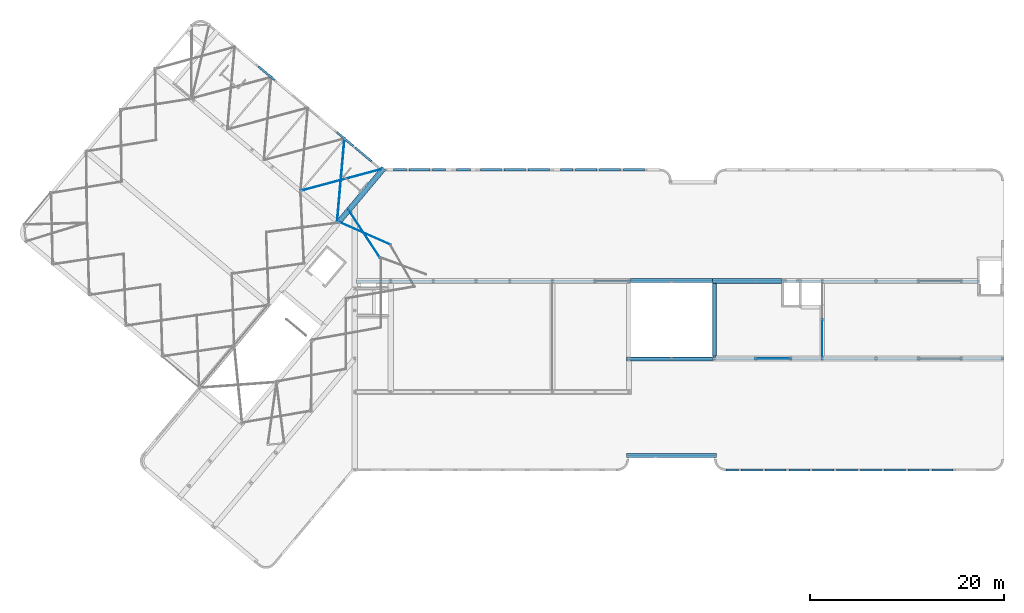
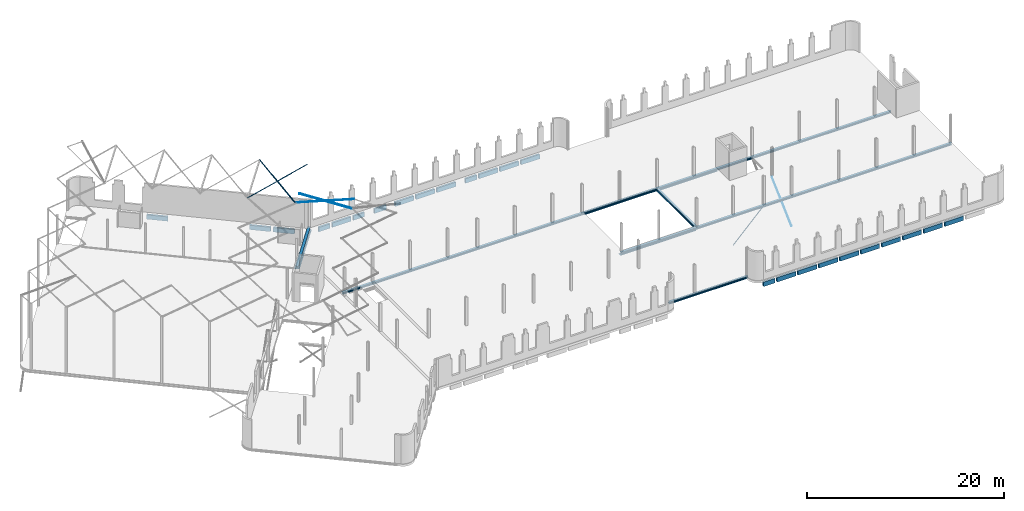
# One storey, part 18 of 25: 41 beams.
"""IFC2X3 building model written with IfcOpenShell, lengths in millimetres."""

from ifc_helpers import new_model, entity, si_unit, converted_unit, derived_unit, direction, frame, frame_2d, origin, origin_2d_with_axis, place, context, subcontext, project, spatial, polyline, circle_curve, parameter, trimmed, segment, composite_curve, rectangle, i_section, outline, extrude, material, type_object, element, save


model = new_model("IFC2X3")

# Units and contexts
model_context = context("Model", 3, precision=0.01, world=origin(), true_north=direction((6.123031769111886e-17, 1.0)))
body_context = subcontext(model_context, "Body", "Model", "MODEL_VIEW")
ifc_project = project(units=[si_unit("LENGTHUNIT", "METRE", prefix="MILLI"), si_unit("AREAUNIT", "SQUARE_METRE"), si_unit("VOLUMEUNIT", "CUBIC_METRE"), derived_unit("MASSDENSITYUNIT", [(si_unit("MASSUNIT", "GRAM", prefix="KILO"), 1), (si_unit("LENGTHUNIT", "METRE"), -3)]), si_unit("MASSUNIT", "GRAM", prefix="KILO"), converted_unit("PLANEANGLEUNIT", "DEGREE", entity("IfcPlaneAngleMeasure", 0.017453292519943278), si_unit("PLANEANGLEUNIT", "RADIAN"), dimensions=[0, 0, 0, 0, 0, 0, 0])], contexts=[model_context])

# Site, building, storey
site_placement = place(None, origin())
site = spatial("IfcSite", under=ifc_project, at=site_placement, Name="Default", CompositionType="ELEMENT")
building_placement = place(site_placement, origin())
building = spatial("IfcBuilding", under=site, at=building_placement, Name="AT constructie", CompositionType="ELEMENT")
storey_placement = place(building_placement, frame((0.0, 0.0, 3864.0)))
storey = spatial("IfcBuildingStorey", under=building, at=storey_placement, Name="01 eerste verdieping", CompositionType="ELEMENT", Elevation=3864.0)

# Beams
ifc_material_1 = material(Name="f2_beton_prefab_gen")
beam_type_1 = type_object("IfcBeamType", Name="balk vierkant_gen_214x544 pbl", PredefinedType="NOTDEFINED")
beam_1_placement = place(storey_placement, frame((49381.874631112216, 42871.04350852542, 0.0)))
element("IfcBeam", 1, at=beam_1_placement, inside=storey, type_object=beam_type_1, material=ifc_material_1, Name="NLRS_28_SF_LIB_balk vierkant prefab_gen_AT:balk vierkant_gen_214x544 pbl", ObjectType="NLRS_28_SF_LIB_balk vierkant prefab_gen_AT:balk vierkant_gen_214x544 pbl", context=body_context, shape_type="SweptSolid", body=[
    extrude(rectangle(XDim=544.0000000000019, YDim=213.99999999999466, at=frame_2d((0.0, -4.334310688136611e-12), x_axis=(1.0, 0.0))), frame((-190.0, -107.0, -642.0), z_axis=(1.0, 0.0, 0.0), x_axis=(0.0, 0.0, -1.0)), (0.0, 0.0, 1.0), 1309.999999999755),
])
beam_2_placement = place(storey_placement, frame((46921.87463111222, 42871.04350852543, 0.0)))
element("IfcBeam", 2, at=beam_2_placement, inside=storey, type_object=beam_type_1, material=ifc_material_1, Name="NLRS_28_SF_LIB_balk vierkant prefab_gen_AT:balk vierkant_gen_214x544 pbl", ObjectType="NLRS_28_SF_LIB_balk vierkant prefab_gen_AT:balk vierkant_gen_214x544 pbl", context=body_context, shape_type="SweptSolid", body=[
    extrude(rectangle(XDim=544.0000000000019, YDim=213.99999999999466, at=frame_2d((0.0, -4.334310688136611e-12), x_axis=(1.0, 0.0))), frame((-190.0, -107.0, -642.0), z_axis=(1.0, 0.0, 0.0), x_axis=(0.0, 0.0, -1.0)), (0.0, 0.0, 1.0), 2190.0000000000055),
])
beam_3_placement = place(storey_placement, frame((51841.87463111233, 42871.043508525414, 0.0)))
element("IfcBeam", 3, at=beam_3_placement, inside=storey, type_object=beam_type_1, material=ifc_material_1, Name="NLRS_28_SF_LIB_balk vierkant prefab_gen_AT:balk vierkant_gen_214x544 pbl", ObjectType="NLRS_28_SF_LIB_balk vierkant prefab_gen_AT:balk vierkant_gen_214x544 pbl", context=body_context, shape_type="SweptSolid", body=[
    extrude(rectangle(XDim=544.0000000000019, YDim=213.99999999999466, at=frame_2d((0.0, 4.334310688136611e-12), x_axis=(1.0, 0.0))), frame((-190.0, -107.0, -642.0), z_axis=(1.0, 0.0, 0.0), x_axis=(0.0, 0.0, -1.0)), (0.0, 0.0, 1.0), 1430.000000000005),
])
beam_4_placement = place(storey_placement, frame((54301.87463111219, 42871.04350852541, 0.0)))
element("IfcBeam", 4, at=beam_4_placement, inside=storey, type_object=beam_type_1, material=ifc_material_1, Name="NLRS_28_SF_LIB_balk vierkant prefab_gen_AT:balk vierkant_gen_214x544 pbl", ObjectType="NLRS_28_SF_LIB_balk vierkant prefab_gen_AT:balk vierkant_gen_214x544 pbl", context=body_context, shape_type="SweptSolid", body=[
    extrude(rectangle(XDim=544.0000000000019, YDim=213.99999999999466, at=frame_2d((0.0, 4.334310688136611e-12), x_axis=(1.0, 0.0))), frame((-190.0, -107.0, -642.0), z_axis=(1.0, 0.0, 0.0), x_axis=(0.0, 0.0, -1.0)), (0.0, 0.0, 1.0), 2190.0000000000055),
])
beam_5_placement = place(storey_placement, frame((56761.87463111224, 42871.0435085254, 0.0)))
element("IfcBeam", 5, at=beam_5_placement, inside=storey, type_object=beam_type_1, material=ifc_material_1, Name="NLRS_28_SF_LIB_balk vierkant prefab_gen_AT:balk vierkant_gen_214x544 pbl", ObjectType="NLRS_28_SF_LIB_balk vierkant prefab_gen_AT:balk vierkant_gen_214x544 pbl", context=body_context, shape_type="SweptSolid", body=[
    extrude(rectangle(XDim=544.0000000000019, YDim=213.99999999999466, at=frame_2d((0.0, -4.334310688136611e-12), x_axis=(1.0, 0.0))), frame((-190.0, -107.0, -642.0), z_axis=(1.0, 0.0, 0.0), x_axis=(0.0, 0.0, -1.0)), (0.0, 0.0, 1.0), 2190.0000000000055),
])
beam_6_placement = place(storey_placement, frame((59221.87463111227, 42871.043508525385, 0.0)))
element("IfcBeam", 6, at=beam_6_placement, inside=storey, type_object=beam_type_1, material=ifc_material_1, Name="NLRS_28_SF_LIB_balk vierkant prefab_gen_AT:balk vierkant_gen_214x544 pbl", ObjectType="NLRS_28_SF_LIB_balk vierkant prefab_gen_AT:balk vierkant_gen_214x544 pbl", context=body_context, shape_type="SweptSolid", body=[
    extrude(rectangle(XDim=544.0000000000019, YDim=213.99999999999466, at=frame_2d((0.0, 4.334310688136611e-12), x_axis=(1.0, 0.0))), frame((-190.0, -107.0, -642.0), z_axis=(1.0, 0.0, 0.0), x_axis=(0.0, 0.0, -1.0)), (0.0, 0.0, 1.0), 2190.0000000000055),
])
beam_7_placement = place(storey_placement, frame((62568.86458016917, 42871.04350852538, 0.0)))
element("IfcBeam", 7, at=beam_7_placement, inside=storey, type_object=beam_type_1, material=ifc_material_1, Name="NLRS_28_SF_LIB_balk vierkant prefab_gen_AT:balk vierkant_gen_214x544 pbl", ObjectType="NLRS_28_SF_LIB_balk vierkant prefab_gen_AT:balk vierkant_gen_214x544 pbl", context=body_context, shape_type="SweptSolid", body=[
    extrude(rectangle(XDim=544.0000000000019, YDim=213.99999999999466, at=frame_2d((0.0, -4.334310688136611e-12), x_axis=(1.0, 0.0))), frame((-190.0, -107.0, -642.0), z_axis=(1.0, 0.0, 0.0), x_axis=(0.0, 0.0, -1.0)), (0.0, 0.0, 1.0), 1303.0100509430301),
])
beam_8_placement = place(storey_placement, frame((45341.874631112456, 42871.043508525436, 0.0)))
element("IfcBeam", 8, at=beam_8_placement, inside=storey, type_object=beam_type_1, material=ifc_material_1, Name="NLRS_28_SF_LIB_balk vierkant prefab_gen_AT:balk vierkant_gen_214x544 pbl", ObjectType="NLRS_28_SF_LIB_balk vierkant prefab_gen_AT:balk vierkant_gen_214x544 pbl", context=body_context, shape_type="SweptSolid", body=[
    extrude(rectangle(XDim=544.0000000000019, YDim=213.99999999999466, at=frame_2d((0.0, -4.334310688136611e-12), x_axis=(1.0, 0.0))), frame((-190.0, -107.0, -642.0), z_axis=(1.0, 0.0, 0.0), x_axis=(0.0, 0.0, -1.0)), (0.0, 0.0, 1.0), 1309.999999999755),
])
beam_9_placement = place(storey_placement, frame((64141.8746311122, 42871.04350852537, 0.0)))
element("IfcBeam", 9, at=beam_9_placement, inside=storey, type_object=beam_type_1, material=ifc_material_1, Name="NLRS_28_SF_LIB_balk vierkant prefab_gen_AT:balk vierkant_gen_214x544 pbl", ObjectType="NLRS_28_SF_LIB_balk vierkant prefab_gen_AT:balk vierkant_gen_214x544 pbl", context=body_context, shape_type="SweptSolid", body=[
    extrude(rectangle(XDim=544.0000000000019, YDim=213.99999999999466, at=frame_2d((0.0, 4.334310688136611e-12), x_axis=(1.0, 0.0))), frame((-190.0, -107.0, -642.0), z_axis=(1.0, 0.0, 0.0), x_axis=(0.0, 0.0, -1.0)), (0.0, 0.0, 1.0), 2190.0000000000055),
])
beam_10_placement = place(storey_placement, frame((66601.87463111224, 42871.04350852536, 0.0)))
element("IfcBeam", 10, at=beam_10_placement, inside=storey, type_object=beam_type_1, material=ifc_material_1, Name="NLRS_28_SF_LIB_balk vierkant prefab_gen_AT:balk vierkant_gen_214x544 pbl", ObjectType="NLRS_28_SF_LIB_balk vierkant prefab_gen_AT:balk vierkant_gen_214x544 pbl", context=body_context, shape_type="SweptSolid", body=[
    extrude(rectangle(XDim=544.0000000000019, YDim=213.99999999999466, at=frame_2d((0.0, -4.334310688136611e-12), x_axis=(1.0, 0.0))), frame((-190.0, -107.0, -642.0), z_axis=(1.0, 0.0, 0.0), x_axis=(0.0, 0.0, -1.0)), (0.0, 0.0, 1.0), 2190.0000000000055),
])
beam_11_placement = place(storey_placement, frame((69061.87463111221, 42871.043508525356, 0.0)))
element("IfcBeam", 11, at=beam_11_placement, inside=storey, type_object=beam_type_1, material=ifc_material_1, Name="NLRS_28_SF_LIB_balk vierkant prefab_gen_AT:balk vierkant_gen_214x544 pbl", ObjectType="NLRS_28_SF_LIB_balk vierkant prefab_gen_AT:balk vierkant_gen_214x544 pbl", context=body_context, shape_type="SweptSolid", body=[
    extrude(rectangle(XDim=544.0000000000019, YDim=213.99999999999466, at=frame_2d((0.0, 4.334310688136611e-12), x_axis=(1.0, 0.0))), frame((-190.0, -107.0, -642.0), z_axis=(1.0, 0.0, 0.0), x_axis=(0.0, 0.0, -1.0)), (0.0, 0.0, 1.0), 2190.0000000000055),
])
beam_12_placement = place(storey_placement, frame((31399.066652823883, 53399.90455519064, 0.0), z_axis=(0.0, 0.0, 1.0), x_axis=(0.7660444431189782, -0.6427876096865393, 0.0)))
element("IfcBeam", 12, at=beam_12_placement, inside=storey, type_object=beam_type_1, material=ifc_material_1, Name="NLRS_28_SF_LIB_balk vierkant prefab_gen_AT:balk vierkant_gen_214x544 pbl", ObjectType="NLRS_28_SF_LIB_balk vierkant prefab_gen_AT:balk vierkant_gen_214x544 pbl", context=body_context, shape_type="SweptSolid", body=[
    extrude(rectangle(XDim=544.0000000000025, YDim=213.9999999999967, at=frame_2d((2.8421709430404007e-13, -4.710898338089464e-12), x_axis=(1.0, 0.0))), frame((-190.0, -107.0, -642.0), z_axis=(1.0, 0.0, 0.0), x_axis=(0.0, 0.0, -1.0)), (0.0, 0.0, 1.0), 2190.000000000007),
])
beam_13_placement = place(storey_placement, frame((39519.136543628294, 46586.356904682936, 0.0), z_axis=(0.0, 0.0, 1.0), x_axis=(0.7660444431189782, -0.6427876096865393, 0.0)))
element("IfcBeam", 13, at=beam_13_placement, inside=storey, type_object=beam_type_1, material=ifc_material_1, Name="NLRS_28_SF_LIB_balk vierkant prefab_gen_AT:balk vierkant_gen_214x544 pbl", ObjectType="NLRS_28_SF_LIB_balk vierkant prefab_gen_AT:balk vierkant_gen_214x544 pbl", context=body_context, shape_type="SweptSolid", body=[
    extrude(rectangle(XDim=544.0000000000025, YDim=213.99999999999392, at=frame_2d((2.8421709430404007e-13, 3.311129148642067e-12), x_axis=(1.0, 0.0))), frame((-190.0, -107.0, -642.0), z_axis=(1.0, 0.0, 0.0), x_axis=(0.0, 0.0, -1.0)), (0.0, 0.0, 1.0), 2190.000000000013),
])
beam_14_placement = place(storey_placement, frame((41403.60587370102, 45005.099384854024, 0.0), z_axis=(0.0, 0.0, 1.0), x_axis=(0.7660444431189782, -0.6427876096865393, 0.0)))
element("IfcBeam", 14, at=beam_14_placement, inside=storey, type_object=beam_type_1, material=ifc_material_1, Name="NLRS_28_SF_LIB_balk vierkant prefab_gen_AT:balk vierkant_gen_214x544 pbl", ObjectType="NLRS_28_SF_LIB_balk vierkant prefab_gen_AT:balk vierkant_gen_214x544 pbl", context=body_context, shape_type="SweptSolid", body=[
    extrude(rectangle(XDim=544.0000000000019, YDim=213.99999999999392, at=frame_2d((0.0, 3.311129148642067e-12), x_axis=(1.0, 0.0))), frame((-190.0, -107.0, -642.0), z_axis=(1.0, 0.0, 0.0), x_axis=(0.0, 0.0, -1.0)), (0.0, 0.0, 1.0), 2190.000000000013),
])
beam_15_placement = place(storey_placement, frame((83681.87463111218, 11671.043508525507, 0.0)))
element("IfcBeam", 15, at=beam_15_placement, inside=storey, type_object=beam_type_1, material=ifc_material_1, Name="NLRS_28_SF_LIB_balk vierkant prefab_gen_AT:balk vierkant_gen_214x544 pbl", ObjectType="NLRS_28_SF_LIB_balk vierkant prefab_gen_AT:balk vierkant_gen_214x544 pbl", context=body_context, shape_type="SweptSolid", body=[
    extrude(rectangle(XDim=544.0000000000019, YDim=213.999999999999, at=frame_2d((0.0, -1.0871303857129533e-12), x_axis=(1.0, 0.0))), frame((-190.0, 107.0, -642.0), z_axis=(1.0, 0.0, 0.0), x_axis=(0.0, 0.0, -1.0)), (0.0, 0.0, 1.0), 2190.000000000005),
])
beam_16_placement = place(storey_placement, frame((81221.87463111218, 11671.043508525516, 0.0)))
element("IfcBeam", 16, at=beam_16_placement, inside=storey, type_object=beam_type_1, material=ifc_material_1, Name="NLRS_28_SF_LIB_balk vierkant prefab_gen_AT:balk vierkant_gen_214x544 pbl", ObjectType="NLRS_28_SF_LIB_balk vierkant prefab_gen_AT:balk vierkant_gen_214x544 pbl", context=body_context, shape_type="SweptSolid", body=[
    extrude(rectangle(XDim=544.0000000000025, YDim=213.999999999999, at=frame_2d((0.0, -1.0871303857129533e-12), x_axis=(1.0, 0.0))), frame((-190.0, 107.0, -642.0), z_axis=(1.0, 0.0, 0.0), x_axis=(0.0, 0.0, -1.0)), (0.0, 0.0, 1.0), 2190.000000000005),
])
beam_17_placement = place(storey_placement, frame((86141.8746311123, 11671.043508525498, 0.0)))
element("IfcBeam", 17, at=beam_17_placement, inside=storey, type_object=beam_type_1, material=ifc_material_1, Name="NLRS_28_SF_LIB_balk vierkant prefab_gen_AT:balk vierkant_gen_214x544 pbl", ObjectType="NLRS_28_SF_LIB_balk vierkant prefab_gen_AT:balk vierkant_gen_214x544 pbl", context=body_context, shape_type="SweptSolid", body=[
    extrude(rectangle(XDim=544.0000000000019, YDim=213.999999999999, at=frame_2d((0.0, -1.0871303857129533e-12), x_axis=(1.0, 0.0))), frame((-190.0, 107.0, -642.0), z_axis=(1.0, 0.0, 0.0), x_axis=(0.0, 0.0, -1.0)), (0.0, 0.0, 1.0), 2190.000000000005),
])
beam_18_placement = place(storey_placement, frame((88601.87463111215, 11671.043508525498, 0.0)))
element("IfcBeam", 18, at=beam_18_placement, inside=storey, type_object=beam_type_1, material=ifc_material_1, Name="NLRS_28_SF_LIB_balk vierkant prefab_gen_AT:balk vierkant_gen_214x544 pbl", ObjectType="NLRS_28_SF_LIB_balk vierkant prefab_gen_AT:balk vierkant_gen_214x544 pbl", context=body_context, shape_type="SweptSolid", body=[
    extrude(rectangle(XDim=544.0000000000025, YDim=213.999999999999, at=frame_2d((0.0, -1.0871303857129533e-12), x_axis=(1.0, 0.0))), frame((-190.0, 107.0, -642.0), z_axis=(1.0, 0.0, 0.0), x_axis=(0.0, 0.0, -1.0)), (0.0, 0.0, 1.0), 2190.000000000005),
])
beam_19_placement = place(storey_placement, frame((91061.8746311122, 11671.043508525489, 0.0)))
element("IfcBeam", 19, at=beam_19_placement, inside=storey, type_object=beam_type_1, material=ifc_material_1, Name="NLRS_28_SF_LIB_balk vierkant prefab_gen_AT:balk vierkant_gen_214x544 pbl", ObjectType="NLRS_28_SF_LIB_balk vierkant prefab_gen_AT:balk vierkant_gen_214x544 pbl", context=body_context, shape_type="SweptSolid", body=[
    extrude(rectangle(XDim=544.0000000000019, YDim=213.999999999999, at=frame_2d((0.0, -1.0871303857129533e-12), x_axis=(1.0, 0.0))), frame((-190.0, 107.0, -642.0), z_axis=(1.0, 0.0, 0.0), x_axis=(0.0, 0.0, -1.0)), (0.0, 0.0, 1.0), 2190.000000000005),
])
beam_20_placement = place(storey_placement, frame((93521.87463111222, 11671.043508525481, 0.0)))
element("IfcBeam", 20, at=beam_20_placement, inside=storey, type_object=beam_type_1, material=ifc_material_1, Name="NLRS_28_SF_LIB_balk vierkant prefab_gen_AT:balk vierkant_gen_214x544 pbl", ObjectType="NLRS_28_SF_LIB_balk vierkant prefab_gen_AT:balk vierkant_gen_214x544 pbl", context=body_context, shape_type="SweptSolid", body=[
    extrude(rectangle(XDim=544.0000000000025, YDim=213.999999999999, at=frame_2d((0.0, -1.0871303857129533e-12), x_axis=(1.0, 0.0))), frame((-190.0, 107.0, -642.0), z_axis=(1.0, 0.0, 0.0), x_axis=(0.0, 0.0, -1.0)), (0.0, 0.0, 1.0), 2190.000000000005),
])
beam_21_placement = place(storey_placement, frame((95981.87463111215, 11671.043508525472, 0.0)))
element("IfcBeam", 21, at=beam_21_placement, inside=storey, type_object=beam_type_1, material=ifc_material_1, Name="NLRS_28_SF_LIB_balk vierkant prefab_gen_AT:balk vierkant_gen_214x544 pbl", ObjectType="NLRS_28_SF_LIB_balk vierkant prefab_gen_AT:balk vierkant_gen_214x544 pbl", context=body_context, shape_type="SweptSolid", body=[
    extrude(rectangle(XDim=544.0000000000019, YDim=213.999999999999, at=frame_2d((0.0, -1.0871303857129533e-12), x_axis=(1.0, 0.0))), frame((-190.0, 107.0, -642.0), z_axis=(1.0, 0.0, 0.0), x_axis=(0.0, 0.0, -1.0)), (0.0, 0.0, 1.0), 2190.000000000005),
])
beam_22_placement = place(storey_placement, frame((98441.87463111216, 11671.043508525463, 0.0)))
element("IfcBeam", 22, at=beam_22_placement, inside=storey, type_object=beam_type_1, material=ifc_material_1, Name="NLRS_28_SF_LIB_balk vierkant prefab_gen_AT:balk vierkant_gen_214x544 pbl", ObjectType="NLRS_28_SF_LIB_balk vierkant prefab_gen_AT:balk vierkant_gen_214x544 pbl", context=body_context, shape_type="SweptSolid", body=[
    extrude(rectangle(XDim=544.0000000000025, YDim=213.999999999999, at=frame_2d((0.0, -1.0871303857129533e-12), x_axis=(1.0, 0.0))), frame((-190.0, 107.0, -642.0), z_axis=(1.0, 0.0, 0.0), x_axis=(0.0, 0.0, -1.0)), (0.0, 0.0, 1.0), 2190.000000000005),
])
beam_23_placement = place(storey_placement, frame((100901.8746311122, 11671.043508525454, 0.0)))
element("IfcBeam", 23, at=beam_23_placement, inside=storey, type_object=beam_type_1, material=ifc_material_1, Name="NLRS_28_SF_LIB_balk vierkant prefab_gen_AT:balk vierkant_gen_214x544 pbl", ObjectType="NLRS_28_SF_LIB_balk vierkant prefab_gen_AT:balk vierkant_gen_214x544 pbl", context=body_context, shape_type="SweptSolid", body=[
    extrude(rectangle(XDim=544.0000000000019, YDim=213.999999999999, at=frame_2d((0.0, -1.0871303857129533e-12), x_axis=(1.0, 0.0))), frame((-190.0, 107.0, -642.0), z_axis=(1.0, 0.0, 0.0), x_axis=(0.0, 0.0, -1.0)), (0.0, 0.0, 1.0), 2190.000000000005),
])
beam_24_placement = place(storey_placement, frame((79641.87463111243, 11671.043508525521, 0.0)))
element("IfcBeam", 24, at=beam_24_placement, inside=storey, type_object=beam_type_1, material=ifc_material_1, Name="NLRS_28_SF_LIB_balk vierkant prefab_gen_AT:balk vierkant_gen_214x544 pbl", ObjectType="NLRS_28_SF_LIB_balk vierkant prefab_gen_AT:balk vierkant_gen_214x544 pbl", context=body_context, shape_type="SweptSolid", body=[
    extrude(rectangle(XDim=544.0000000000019, YDim=213.999999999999, at=frame_2d((0.0, -1.0871303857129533e-12), x_axis=(1.0, 0.0))), frame((-190.0, 107.0, -642.0), z_axis=(1.0, 0.0, 0.0), x_axis=(0.0, 0.0, -1.0)), (0.0, 0.0, 1.0), 1309.9999999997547),
])
ifc_material_2 = material(Name="h2_staal_S355")
beam_type_2 = type_object("IfcBeamType", Name="balk strip liggend_gen_500x15", PredefinedType="NOTDEFINED")
beam_25_placement = place(storey_placement, frame((78096.87463111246, 31271.043508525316, 0.0)))
element("IfcBeam", 25, at=beam_25_placement, inside=storey, type_object=beam_type_2, material=ifc_material_2, Name="NLRS_28_SF_LIB_balk strip_gen_AT:balk strip liggend_gen_500x15", ObjectType="NLRS_28_SF_LIB_balk strip_gen_AT:balk strip liggend_gen_500x15", context=body_context, shape_type="SweptSolid", body=[
    extrude(rectangle(XDim=14.999999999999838, YDim=499.999999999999, at=frame_2d((0.0, 4.334310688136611e-12), x_axis=(1.0, 0.0))), frame((6.095935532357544e-07, 0.0, -377.50000000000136), z_axis=(1.0, 0.0, 0.0), x_axis=(0.0, 0.0, -1.0)), (0.0, 0.0, 1.0), 7119.999999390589),
])
beam_type_3 = type_object("IfcBeamType", Name="balk HE_gen_HEB260", PredefinedType="NOTDEFINED")
beam_26_placement = place(storey_placement, frame((69316.87463111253, 23271.043508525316, 0.0)))
element("IfcBeam", 26, at=beam_26_placement, inside=storey, type_object=beam_type_3, material=ifc_material_2, Name="NLRS_28_SF_LIB_balk HEB_gen_AT:balk HE_gen_HEB260", ObjectType="NLRS_28_SF_LIB_balk HEB_gen_AT:balk HE_gen_HEB260", context=body_context, shape_type="SweptSolid", body=[
    extrude(i_section(OverallWidth=260.00000000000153, OverallDepth=259.9999999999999, WebThickness=9.999999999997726, FlangeThickness=17.49999999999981, FilletRadius=23.99999999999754, at=frame_2d((2.7000623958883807e-13, -4.320099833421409e-12), x_axis=(0.0, 1.0))), frame((0.0, 0.0, -240.0), z_axis=(1.0, 0.0, 0.0), x_axis=(0.0, 0.0, -1.0)), (0.0, 0.0, 1.0), 38851.99999999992),
])
beam_27_placement = place(storey_placement, frame((41146.874631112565, 31271.043508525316, 0.0)))
element("IfcBeam", 27, at=beam_27_placement, inside=storey, type_object=beam_type_3, material=ifc_material_2, Name="NLRS_28_SF_LIB_balk HEB_gen_AT:balk HE_gen_HEB260", ObjectType="NLRS_28_SF_LIB_balk HEB_gen_AT:balk HE_gen_HEB260", context=body_context, shape_type="SweptSolid", body=[
    extrude(i_section(OverallWidth=260.00000000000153, OverallDepth=259.9999999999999, WebThickness=9.999999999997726, FlangeThickness=17.49999999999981, FilletRadius=23.99999999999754, at=frame_2d((2.7000623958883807e-13, -8.668621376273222e-12), x_axis=(0.0, 1.0))), frame((150.0, 0.0, -240.0), z_axis=(1.0, 0.0, 0.0), x_axis=(0.0, 0.0, -1.0)), (0.0, 0.0, 1.0), 64336.0000037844),
])
beam_28_placement = place(storey_placement, frame((78246.87463111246, 31141.04350852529, 0.0), z_axis=(0.0, 0.0, 1.0), x_axis=(0.0, -1.0, 0.0)))
element("IfcBeam", 28, at=beam_28_placement, inside=storey, type_object=beam_type_3, material=ifc_material_2, Name="NLRS_28_SF_LIB_balk HEB_gen_AT:balk HE_gen_HEB260", ObjectType="NLRS_28_SF_LIB_balk HEB_gen_AT:balk HE_gen_HEB260", context=body_context, shape_type="SweptSolid", body=[
    extrude(i_section(OverallWidth=259.9999999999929, OverallDepth=259.9999999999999, WebThickness=9.999999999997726, FlangeThickness=17.49999999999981, FilletRadius=23.999999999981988, at=frame_2d((2.7000623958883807e-13, -1.7323031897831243e-11), x_axis=(0.0, 1.0))), frame((0.0, 0.0, -240.0), z_axis=(1.0, 0.0, 0.0), x_axis=(0.0, 0.0, -1.0)), (0.0, 0.0, 1.0), 7740.0),
])
beam_29_placement = place(storey_placement, frame((69220.37462610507, 13201.043508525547, 0.0)))
element("IfcBeam", 29, at=beam_29_placement, inside=storey, type_object=beam_type_3, material=ifc_material_2, Name="NLRS_28_SF_LIB_balk HEB_gen_AT:balk HE_gen_HEB260", ObjectType="NLRS_28_SF_LIB_balk HEB_gen_AT:balk HE_gen_HEB260", context=body_context, shape_type="SweptSolid", body=[
    extrude(i_section(OverallWidth=259.9999999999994, OverallDepth=259.9999999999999, WebThickness=9.999999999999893, FlangeThickness=17.49999999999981, FilletRadius=24.000000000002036, at=frame_2d((2.7000623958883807e-13, 1.0800249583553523e-12), x_axis=(0.0, 1.0))), frame((0.0, 0.0, -240.0), z_axis=(1.0, 0.0, 0.0), x_axis=(0.0, 0.0, -1.0)), (0.0, 0.0, 1.0), 9253.000006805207),
])
beam_type_4 = type_object("IfcBeamType", Name="balk strip liggend_gen_420x15", PredefinedType="NOTDEFINED")
beam_30_placement = place(storey_placement, frame((69196.87463111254, 23231.043508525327, 0.0)))
element("IfcBeam", 30, at=beam_30_placement, inside=storey, type_object=beam_type_4, material=ifc_material_2, Name="NLRS_28_SF_LIB_balk strip_gen_AT:balk strip liggend_gen_420x15", ObjectType="NLRS_28_SF_LIB_balk strip_gen_AT:balk strip liggend_gen_420x15", context=body_context, shape_type="SweptSolid", body=[
    extrude(rectangle(XDim=14.999999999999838, YDim=419.99999999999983, at=origin_2d_with_axis()), frame((0.0, 0.0, -377.50000000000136), z_axis=(1.0, 0.0, 0.0), x_axis=(0.0, 0.0, -1.0)), (0.0, 0.0, 1.0), 8899.99999939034),
])
beam_31_placement = place(storey_placement, frame((69596.87463111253, 31311.043508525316, 0.0)))
element("IfcBeam", 31, at=beam_31_placement, inside=storey, type_object=beam_type_4, material=ifc_material_2, Name="NLRS_28_SF_LIB_balk strip_gen_AT:balk strip liggend_gen_420x15", ObjectType="NLRS_28_SF_LIB_balk strip_gen_AT:balk strip liggend_gen_420x15", context=body_context, shape_type="SweptSolid", body=[
    extrude(rectangle(XDim=14.999999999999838, YDim=419.9999999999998, at=frame_2d((0.0, 4.334310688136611e-12), x_axis=(1.0, 0.0))), frame((6.095935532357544e-07, 0.0, -377.50000000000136), z_axis=(1.0, 0.0, 0.0), x_axis=(0.0, 0.0, -1.0)), (0.0, 0.0, 1.0), 8499.999998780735),
])
beam_type_5 = type_object("IfcBeamType", Name="balk strip liggend_gen_400x15", PredefinedType="NOTDEFINED")
beam_32_placement = place(storey_placement, frame((78296.87463111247, 31021.04350852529, 0.0), z_axis=(0.0, 0.0, 1.0), x_axis=(0.0, -1.0, 0.0)))
element("IfcBeam", 32, at=beam_32_placement, inside=storey, type_object=beam_type_5, material=ifc_material_2, Name="NLRS_28_SF_LIB_balk strip_gen_AT:balk strip liggend_gen_400x15", ObjectType="NLRS_28_SF_LIB_balk strip_gen_AT:balk strip liggend_gen_400x15", context=body_context, shape_type="SweptSolid", body=[
    extrude(rectangle(XDim=14.999999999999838, YDim=399.9999999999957, at=origin_2d_with_axis()), frame((0.0, 0.0, -377.50000000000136), z_axis=(1.0, 0.0, 0.0), x_axis=(0.0, 0.0, -1.0)), (0.0, 0.0, 1.0), 7499.999999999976),
])
beam_33_placement = place(storey_placement, frame((69220.37462109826, 13271.043508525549, 0.0)))
element("IfcBeam", 33, at=beam_33_placement, inside=storey, type_object=beam_type_5, material=ifc_material_2, Name="NLRS_28_SF_LIB_balk strip_gen_AT:balk strip liggend_gen_400x15", ObjectType="NLRS_28_SF_LIB_balk strip_gen_AT:balk strip liggend_gen_400x15", context=body_context, shape_type="SweptSolid", body=[
    extrude(rectangle(XDim=14.999999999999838, YDim=400.0, at=origin_2d_with_axis()), frame((6.096022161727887e-07, 0.0, -377.50000000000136), z_axis=(1.0, 0.0, 0.0), x_axis=(0.0, 0.0, -1.0)), (0.0, 0.0, 1.0), 9253.000010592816),
])
beam_type_6 = type_object("IfcBeamType", Name="balk HE_gen_HEB320", PredefinedType="NOTDEFINED")
beam_34_placement = place(storey_placement, frame((39553.7499216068, 37441.05587489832, 0.0), z_axis=(0.0, 0.0, 1.0), x_axis=(0.642787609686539, 0.7660444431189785, 0.0)))
element("IfcBeam", 34, at=beam_34_placement, inside=storey, type_object=beam_type_6, material=ifc_material_2, Name="NLRS_28_SF_LIB_balk HEB_gen_AT:balk HE_gen_HEB320", ObjectType="NLRS_28_SF_LIB_balk HEB_gen_AT:balk HE_gen_HEB320", context=body_context, shape_type="SweptSolid", body=[
    extrude(i_section(OverallWidth=299.999999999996, OverallDepth=319.99999999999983, WebThickness=11.499999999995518, FlangeThickness=20.500000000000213, FilletRadius=26.99999999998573, at=frame_2d((5.400124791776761e-13, -6.0964566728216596e-12), x_axis=(0.0, 1.0))), frame((0.0, 0.0, -210.0), z_axis=(1.0, 0.0, 0.0), x_axis=(0.0, 0.0, -1.0)), (0.0, 0.0, 1.0), 7156.0300059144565),
])
beam_type_7 = type_object("IfcBeamType", Name="balk strip liggend_gen_560x20", PredefinedType="NOTDEFINED")
beam_35_placement = place(storey_placement, frame((39553.749921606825, 37441.055874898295, 0.0), z_axis=(0.0, 0.0, 1.0), x_axis=(0.642787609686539, 0.7660444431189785, 0.0)))
element("IfcBeam", 35, at=beam_35_placement, inside=storey, type_object=beam_type_7, material=ifc_material_2, Name="NLRS_28_SF_LIB_balk strip_gen_AT:balk strip liggend_gen_560x20", ObjectType="NLRS_28_SF_LIB_balk strip_gen_AT:balk strip liggend_gen_560x20", context=body_context, shape_type="SweptSolid", body=[
    extrude(rectangle(XDim=19.999999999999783, YDim=559.9999999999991, at=origin_2d_with_axis()), frame((0.0, 0.0, -380.0), z_axis=(1.0, 0.0, 0.0), x_axis=(0.0, 0.0, -1.0)), (0.0, 0.0, 1.0), 7156.03000591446),
])
beam_type_8 = type_object("IfcBeamType", Name="balk strip liggend_gen_120x10", PredefinedType="NOTDEFINED")
beam_36_placement = place(storey_placement, frame((89412.37463111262, 27271.043508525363, -240.0), z_axis=(0.0, -0.6764579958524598, 0.73648121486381), x_axis=(0.0, -0.73648121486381, -0.6764579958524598)))
element("IfcBeam", 36, at=beam_36_placement, inside=storey, type_object=beam_type_8, material=ifc_material_2, Name="NLRS_28_SF_LIB_balk strip_gen_AT:balk strip liggend_gen_120x10", ObjectType="NLRS_28_SF_LIB_balk strip_gen_AT:balk strip liggend_gen_120x10", context=body_context, shape_type="SweptSolid", body=[
    extrude(rectangle(XDim=119.99999999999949, YDim=9.999999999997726, at=frame_2d((3.8617997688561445e-12, -8.662848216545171e-12), x_axis=(1.0, 0.0))), frame((0.0, -5.0, 0.0), z_axis=(1.0, 0.0, 0.0), x_axis=(0.0, 0.0, -1.0)), (0.0, 0.0, 1.0), 5431.231536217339),
])
beam_type_9 = type_object("IfcBeamType", Name="balk_gen_K100x50x4", PredefinedType="NOTDEFINED")
beam_37_placement = place(storey_placement, frame((86111.16146243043, 23266.043508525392, -205.00614935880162), z_axis=(0.7142633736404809, 0.0, -0.6998770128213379), x_axis=(-0.6998770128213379, 0.0, -0.7142633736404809)))
element("IfcBeam", 37, at=beam_37_placement, inside=storey, type_object=beam_type_9, material=ifc_material_2, Name="NLRS_28_SF_LIB_balk koker ongelijk_gen_AT:balk_gen_K100x50x4", ObjectType="NLRS_28_SF_LIB_balk koker ongelijk_gen_AT:balk_gen_K100x50x4", context=body_context, shape_type="SweptSolid", body=[
    extrude(outline(composite_curve([segment(polyline([(-42.0, -25.0), (42.0, -25.0)]), True, "CONTINUOUS"), segment(trimmed(circle_curve(frame_2d((42.0, -17.0), x_axis=(0.0, -1.0)), 8.0), [parameter(359.9999999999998)], [parameter(89.99999999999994)], True, "PARAMETER"), True, "CONTINUOUS"), segment(polyline([(50.0, -17.0), (50.0, 17.0)]), True, "CONTINUOUS"), segment(trimmed(circle_curve(frame_2d((42.0, 17.0), x_axis=(0.0, -1.0)), 8.0), [parameter(90.0000000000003)], [parameter(180.0)], True, "PARAMETER"), True, "CONTINUOUS"), segment(polyline([(42.0, 25.0), (-42.0, 25.0)]), True, "CONTINUOUS"), segment(trimmed(circle_curve(frame_2d((-42.0, 17.0), x_axis=(0.0, -1.0)), 8.0), [parameter(179.99999999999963)], [parameter(269.9999999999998)], True, "PARAMETER"), True, "CONTINUOUS"), segment(polyline([(-50.0, 17.0), (-50.0, -17.0)]), True, "CONTINUOUS"), segment(trimmed(circle_curve(frame_2d((-42.0, -17.0), x_axis=(0.0, -1.0)), 8.0), [parameter(270.0000000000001)], [parameter(5.088887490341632e-14)], True, "PARAMETER"), True, "CONTINUOUS")], self_intersect=False), holes=[composite_curve([segment(trimmed(circle_curve(frame_2d((-42.0, 17.0), x_axis=(0.0, -1.0)), 4.0), [parameter(180.00000000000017)], [parameter(270.00000000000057)], True, "PARAMETER"), False, "CONTINUOUS"), segment(polyline([(-42.0, 21.0), (42.0, 21.0)]), True, "CONTINUOUS"), segment(trimmed(circle_curve(frame_2d((42.0, 17.0), x_axis=(0.0, -1.0)), 4.0), [parameter(90.0000000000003)], [parameter(179.99999999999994)], True, "PARAMETER"), False, "CONTINUOUS"), segment(polyline([(46.0, 17.0), (46.0, -17.0)]), True, "CONTINUOUS"), segment(trimmed(circle_curve(frame_2d((42.0, -17.0), x_axis=(0.0, -1.0)), 4.0), [parameter(2.544443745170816e-13)], [parameter(90.00000000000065)], True, "PARAMETER"), False, "CONTINUOUS"), segment(polyline([(42.0, -21.0), (-42.0, -21.0)]), True, "CONTINUOUS"), segment(trimmed(circle_curve(frame_2d((-42.0, -17.0), x_axis=(0.0, -1.0)), 4.0), [parameter(269.99999999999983)], [parameter(0.0)], True, "PARAMETER"), False, "CONTINUOUS"), segment(polyline([(-46.0, -17.0), (-46.0, 17.0)]), True, "CONTINUOUS")], self_intersect=False)]), frame((0.0, 0.0, 50.0), z_axis=(1.0, 0.0, 0.0), x_axis=(0.0, 0.0, 1.0)), (0.0, 0.0, 1.0), 5143.760880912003),
])
beam_type_10 = type_object("IfcBeamType", Name="balk_gen_L70x70x7", PredefinedType="NOTDEFINED")
beam_38_placement = place(storey_placement, frame((40109.2263322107, 45967.23082761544, 7888.51961097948), z_axis=(0.001149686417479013, 0.013059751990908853, 0.9999140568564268), x_axis=(-0.08768610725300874, -0.9960618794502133, 0.013110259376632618)))
element("IfcBeam", 38, at=beam_38_placement, inside=storey, type_object=beam_type_10, material=ifc_material_2, Name="NLRS_28_SF_LIB_balk hoeklijn_gen_AT:balk_gen_L70x70x7", ObjectType="NLRS_28_SF_LIB_balk hoeklijn_gen_AT:balk_gen_L70x70x7", context=body_context, shape_type="SweptSolid", body=[
    extrude(outline(composite_curve([segment(polyline([(-26.444444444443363, -26.44444444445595), (43.555555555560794, -26.444444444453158)]), True, "CONTINUOUS"), segment(polyline([(43.555555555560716, -26.444444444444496), (43.55555555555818, -23.9444444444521)]), True, "CONTINUOUS"), segment(trimmed(circle_curve(frame_2d((39.05555555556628, -23.94444444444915), x_axis=(1.0, 0.0)), 4.499999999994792), [parameter(0.0)], [parameter(90.0000000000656)], True, "PARAMETER"), True, "CONTINUOUS"), segment(polyline([(39.05555555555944, -19.44444444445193), (-10.444444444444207, -19.44444444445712)]), True, "CONTINUOUS"), segment(trimmed(circle_curve(frame_2d((-10.444444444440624, -10.444444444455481), x_axis=(0.0, -1.0)), 9.000000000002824), [parameter(269.9999999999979)], [parameter(0.0)], True, "PARAMETER"), False, "CONTINUOUS"), segment(polyline([(-19.444444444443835, -10.444444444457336), (-19.444444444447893, 39.05555555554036)]), True, "CONTINUOUS"), segment(trimmed(circle_curve(frame_2d((-23.944444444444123, 39.05555555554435), x_axis=(1.0, 0.0)), 4.499999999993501), [parameter(0.0)], [parameter(90.00000000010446)], True, "PARAMETER"), True, "CONTINUOUS"), segment(polyline([(-23.944444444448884, 43.55555555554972), (-26.44444444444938, 43.555555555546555)]), True, "CONTINUOUS"), segment(polyline([(-26.44444444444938, 43.555555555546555), (-26.444444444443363, -26.44444444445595)]), True, "CONTINUOUS")], self_intersect=False)), frame((0.0, -20.026366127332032, -63.374598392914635), z_axis=(1.0, 0.0, 0.0), x_axis=(0.0, 0.009168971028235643, 0.9999579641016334)), (0.0, 0.0, 1.0), 8602.566631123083),
])
beam_39_placement = place(storey_placement, frame((43879.51245157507, 42790.76438905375, 7888.676751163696), z_axis=(0.01265808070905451, 0.003390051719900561, 0.9999141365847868), x_axis=(-0.9658747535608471, -0.2586778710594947, 0.013104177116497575)))
element("IfcBeam", 39, at=beam_39_placement, inside=storey, type_object=beam_type_10, material=ifc_material_2, Name="NLRS_28_SF_LIB_balk hoeklijn_gen_AT:balk_gen_L70x70x7", ObjectType="NLRS_28_SF_LIB_balk hoeklijn_gen_AT:balk_gen_L70x70x7", context=body_context, shape_type="SweptSolid", body=[
    extrude(outline(composite_curve([segment(polyline([(-26.44444444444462, -26.444444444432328), (43.55555555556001, -26.44444444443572)]), True, "CONTINUOUS"), segment(polyline([(43.55555555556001, -26.44444444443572), (43.555555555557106, -23.94444444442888)]), True, "CONTINUOUS"), segment(trimmed(circle_curve(frame_2d((39.055555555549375, -23.94444444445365), x_axis=(1.0, 0.0)), 4.500000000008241), [parameter(0.0)], [parameter(89.99999999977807)], True, "PARAMETER"), True, "CONTINUOUS"), segment(polyline([(39.05555555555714, -19.444444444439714), (-10.444444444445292, -19.444444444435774)]), True, "CONTINUOUS"), segment(trimmed(circle_curve(frame_2d((-10.444444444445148, -10.444444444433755), x_axis=(0.0, -1.0)), 8.999999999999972), [parameter(270.00000000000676)], [parameter(0.0)], True, "PARAMETER"), False, "CONTINUOUS"), segment(polyline([(-19.444444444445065, -10.444444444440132), (-19.444444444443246, 39.05555555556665)]), True, "CONTINUOUS"), segment(trimmed(circle_curve(frame_2d((-23.944444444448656, 39.05555555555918), x_axis=(1.0, 0.0)), 4.500000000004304), [parameter(0.0)], [parameter(89.99999999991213)], True, "PARAMETER"), True, "CONTINUOUS"), segment(polyline([(-23.94444444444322, 43.555555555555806), (-26.444444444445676, 43.555555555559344)]), True, "CONTINUOUS"), segment(polyline([(-26.444444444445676, 43.555555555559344), (-26.44444444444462, -26.444444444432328)]), True, "CONTINUOUS")], self_intersect=False)), frame((0.0, -18.86033409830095, -63.731333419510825), z_axis=(1.0, 0.0, 0.0), x_axis=(0.0, -0.009177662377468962, 0.9999578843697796)), (0.0, 0.0, 1.0), 8594.567873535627),
])
beam_40_placement = place(storey_placement, frame((40541.41913704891, 38618.114210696, 7974.150679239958), z_axis=(-0.00252005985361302, 0.003828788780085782, 0.999989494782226), x_axis=(0.5497812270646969, -0.8352961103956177, 0.004583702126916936)))
element("IfcBeam", 40, at=beam_40_placement, inside=storey, type_object=beam_type_10, material=ifc_material_2, Name="NLRS_28_SF_LIB_balk hoeklijn_gen_AT:balk_gen_L70x70x7", ObjectType="NLRS_28_SF_LIB_balk hoeklijn_gen_AT:balk_gen_L70x70x7", context=body_context, shape_type="SweptSolid", body=[
    extrude(outline(composite_curve([segment(polyline([(-26.444444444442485, -26.444444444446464), (43.55555555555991, -26.444444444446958)]), True, "CONTINUOUS"), segment(polyline([(43.55555555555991, -26.444444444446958), (43.555555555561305, -23.944444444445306)]), True, "CONTINUOUS"), segment(trimmed(circle_curve(frame_2d((39.055555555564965, -23.944444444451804), x_axis=(1.0, 0.0)), 4.4999999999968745), [parameter(0.0)], [parameter(90.00000000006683)], True, "PARAMETER"), True, "CONTINUOUS"), segment(polyline([(39.055555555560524, -19.444444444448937), (-10.444444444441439, -19.444444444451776)]), True, "CONTINUOUS"), segment(trimmed(circle_curve(frame_2d((-10.444444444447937, -10.444444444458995), x_axis=(0.0, -1.0)), 8.999999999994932), [parameter(269.99999999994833)], [parameter(0.0)], True, "PARAMETER"), False, "CONTINUOUS"), segment(polyline([(-19.44444444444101, -10.44444444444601), (-19.44444444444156, 39.05555555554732)]), True, "CONTINUOUS"), segment(trimmed(circle_curve(frame_2d((-23.9444444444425, 39.05555555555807), x_axis=(1.0, 0.0)), 4.4999999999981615), [parameter(0.0)], [parameter(90.00000000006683)], True, "PARAMETER"), True, "CONTINUOUS"), segment(polyline([(-23.94444444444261, 43.555555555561), (-26.44444444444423, 43.55555555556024)]), True, "CONTINUOUS"), segment(polyline([(-26.44444444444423, 43.55555555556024), (-26.444444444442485, -26.444444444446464)]), True, "CONTINUOUS")], self_intersect=False)), frame((0.0, -20.41630149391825, -63.25005687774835), z_axis=(1.0, 0.0, 0.0), x_axis=(0.0, 0.015327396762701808, 0.9998825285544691)), (0.0, 0.0, 1.0), 5923.3368195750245),
])
beam_41_placement = place(storey_placement, frame((44886.94989499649, 34968.18338577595, 7974.194773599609), z_axis=(0.004066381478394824, -0.0017989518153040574, 0.9999901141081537), x_axis=(-0.9144963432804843, 0.4045697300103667, 0.004446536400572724)))
element("IfcBeam", 41, at=beam_41_placement, inside=storey, type_object=beam_type_10, material=ifc_material_2, Name="NLRS_28_SF_LIB_balk hoeklijn_gen_AT:balk_gen_L70x70x7", ObjectType="NLRS_28_SF_LIB_balk hoeklijn_gen_AT:balk_gen_L70x70x7", context=body_context, shape_type="SweptSolid", body=[
    extrude(outline(composite_curve([segment(polyline([(-26.444444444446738, -26.44444444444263), (43.55555555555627, -26.444444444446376)]), True, "CONTINUOUS"), segment(polyline([(43.555555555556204, -26.444444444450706), (43.55555555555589, -23.944444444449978)]), True, "CONTINUOUS"), segment(trimmed(circle_curve(frame_2d((39.05555555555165, -23.944444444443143), x_axis=(1.0, 0.0)), 4.500000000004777), [parameter(0.0)], [parameter(89.99999999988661)], True, "PARAMETER"), True, "CONTINUOUS"), segment(polyline([(39.05555555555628, -19.444444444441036), (-10.444444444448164, -19.444444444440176)]), True, "CONTINUOUS"), segment(trimmed(circle_curve(frame_2d((-10.444444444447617, -10.444444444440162), x_axis=(0.0, -1.0)), 8.999999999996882), [parameter(269.9999999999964)], [parameter(0.0)], True, "PARAMETER"), False, "CONTINUOUS"), segment(polyline([(-19.444444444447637, -10.444444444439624), (-19.44444444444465, 39.05555555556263)]), True, "CONTINUOUS"), segment(trimmed(circle_curve(frame_2d((-23.944444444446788, 39.05555555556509), x_axis=(1.0, 0.0)), 4.499999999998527), [parameter(0.0)], [parameter(89.99999999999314)], True, "PARAMETER"), True, "CONTINUOUS"), segment(polyline([(-23.944444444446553, 43.55555555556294), (-26.44444444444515, 43.555555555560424)]), True, "CONTINUOUS"), segment(polyline([(-26.44444444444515, 43.555555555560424), (-26.44444444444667, -26.444444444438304)]), True, "CONTINUOUS")], self_intersect=False)), frame((0.0, -18.465442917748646, -63.84686742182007), z_axis=(1.0, 0.0, 0.0), x_axis=(0.0, -0.01536774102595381, 0.9998819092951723)), (0.0, 0.0, 1.0), 5907.782881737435),
])

save(model, "model.ifc")
